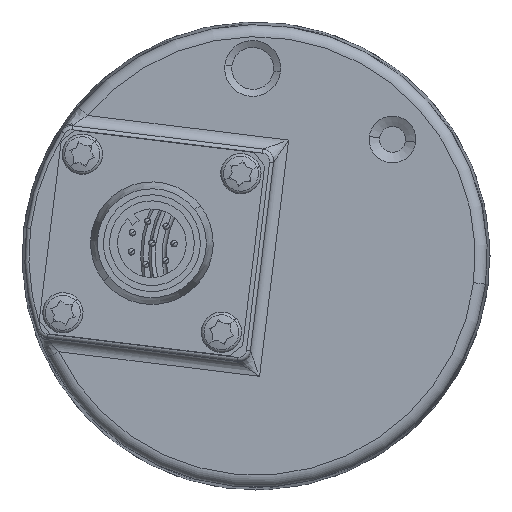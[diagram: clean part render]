
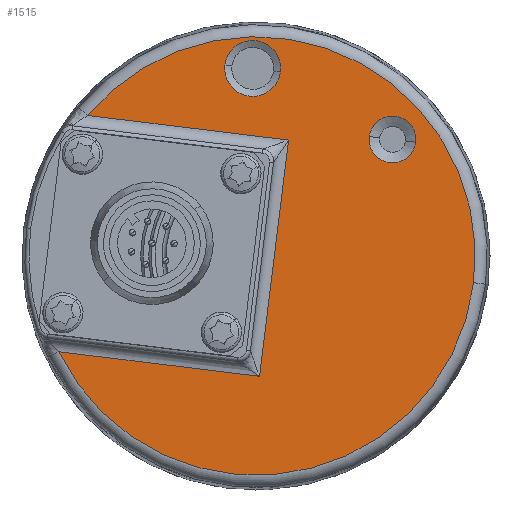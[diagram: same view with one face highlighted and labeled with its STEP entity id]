
A CAD part, left-side view. The second image highlights one B-rep face of the part: STEP entity #1515.
In plain terms, the highlighted planar face has unit normal (-1, 0, 0).
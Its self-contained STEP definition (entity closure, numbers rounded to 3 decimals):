
#1391 = VERTEX_POINT ( 'NONE', #5751 ) ;
#1392 = VERTEX_POINT ( 'NONE', #5750 ) ;
#1433 = VERTEX_POINT ( 'NONE', #5894 ) ;
#1462 = VERTEX_POINT ( 'NONE', #5979 ) ;
#1464 = EDGE_CURVE ( 'NONE', #1465, #1462, #5978, .T. ) ;
#1465 = VERTEX_POINT ( 'NONE', #5973 ) ;
#1474 = EDGE_CURVE ( 'NONE', #1391, #1392, #5997, .T. ) ;
#1491 = VERTEX_POINT ( 'NONE', #6278 ) ;
#1508 = VERTEX_POINT ( 'NONE', #6554 ) ;
#1511 = VERTEX_POINT ( 'NONE', #6544 ) ;
#1513 = EDGE_CURVE ( 'NONE', #1433, #1511, #6543, .T. ) ;
#1514 = EDGE_CURVE ( 'NONE', #1462, #1465, #6592, .T. ) ;
#1515 = ADVANCED_FACE ( 'NONE', ( #6587, #6586, #6585 ), #6570, .F. ) ;
#1516 = EDGE_LOOP ( 'NONE', ( #1517, #1518 ) ) ;
#1517 = ORIENTED_EDGE ( 'NONE', *, *, #1464, .T. ) ;
#1518 = ORIENTED_EDGE ( 'NONE', *, *, #1514, .T. ) ;
#1519 = EDGE_LOOP ( 'NONE', ( #1520, #1574 ) ) ;
#1520 = ORIENTED_EDGE ( 'NONE', *, *, #1513, .T. ) ;
#1521 = EDGE_LOOP ( 'NONE', ( #1575, #1578, #1580, #1581, #1583 ) ) ;
#1545 = EDGE_CURVE ( 'NONE', #1511, #1433, #6654, .T. ) ;
#1549 = EDGE_CURVE ( 'NONE', #1508, #1491, #6696, .T. ) ;
#1574 = ORIENTED_EDGE ( 'NONE', *, *, #1545, .T. ) ;
#1575 = ORIENTED_EDGE ( 'NONE', *, *, #1576, .T. ) ;
#1576 = EDGE_CURVE ( 'NONE', #1491, #1577, #6997, .T. ) ;
#1577 = VERTEX_POINT ( 'NONE', #6351 ) ;
#1578 = ORIENTED_EDGE ( 'NONE', *, *, #1579, .T. ) ;
#1579 = EDGE_CURVE ( 'NONE', #1577, #1391, #6704, .T. ) ;
#1580 = ORIENTED_EDGE ( 'NONE', *, *, #1474, .T. ) ;
#1581 = ORIENTED_EDGE ( 'NONE', *, *, #1582, .T. ) ;
#1582 = EDGE_CURVE ( 'NONE', #1392, #1508, #7066, .T. ) ;
#1583 = ORIENTED_EDGE ( 'NONE', *, *, #1549, .T. ) ;
#5750 = CARTESIAN_POINT ( 'NONE',  ( -22.96, 12.697, 20.024 ) ) ;
#5751 = CARTESIAN_POINT ( 'NONE',  ( -22.96, -35.127, -0.708 ) ) ;
#5894 = CARTESIAN_POINT ( 'NONE',  ( -22.96, -22.198, 17.407 ) ) ;
#5973 = CARTESIAN_POINT ( 'NONE',  ( -22.96, -4.311, 26.272 ) ) ;
#5974 = DIRECTION ( 'NONE',  ( 0., -0.993, -0.122 ) ) ;
#5975 = DIRECTION ( 'NONE',  ( 1., 0., 0. ) ) ;
#5976 = CARTESIAN_POINT ( 'NONE',  ( -22.96, -7.751, 25.85 ) ) ;
#5977 = AXIS2_PLACEMENT_3D ( 'NONE', #5976, #5975, #5974 ) ;
#5978 = CIRCLE ( 'NONE', #5977, 3.466 ) ;
#5979 = CARTESIAN_POINT ( 'NONE',  ( -22.96, -11.191, 25.427 ) ) ;
#5993 = DIRECTION ( 'NONE',  ( 0., -0.993, -0.122 ) ) ;
#5994 = DIRECTION ( 'NONE',  ( -1., 0., 0. ) ) ;
#5995 = CARTESIAN_POINT ( 'NONE',  ( -22.96, -8.157, 2.603 ) ) ;
#5996 = AXIS2_PLACEMENT_3D ( 'NONE', #5995, #5994, #5993 ) ;
#5997 = CIRCLE ( 'NONE', #5996, 27.173 ) ;
#6278 = CARTESIAN_POINT ( 'NONE',  ( -22.96, -8.592, -12.311 ) ) ;
#6350 = DIRECTION ( 'NONE',  ( 0., -0.993, -0.122 ) ) ;
#6351 = CARTESIAN_POINT ( 'NONE',  ( -22.96, 16.292, -9.256 ) ) ;
#6539 = DIRECTION ( 'NONE',  ( 0., -0.993, -0.122 ) ) ;
#6540 = DIRECTION ( 'NONE',  ( 1., 0., 0. ) ) ;
#6541 = CARTESIAN_POINT ( 'NONE',  ( -22.96, -25.076, 17.053 ) ) ;
#6542 = AXIS2_PLACEMENT_3D ( 'NONE', #6541, #6540, #6539 ) ;
#6543 = CIRCLE ( 'NONE', #6542, 2.899 ) ;
#6544 = CARTESIAN_POINT ( 'NONE',  ( -22.96, -27.953, 16.7 ) ) ;
#6554 = CARTESIAN_POINT ( 'NONE',  ( -22.96, -12.187, 16.969 ) ) ;
#6564 = DIRECTION ( 'NONE',  ( 0., -0.993, -0.122 ) ) ;
#6565 = DIRECTION ( 'NONE',  ( 1., 0., 0. ) ) ;
#6566 = CARTESIAN_POINT ( 'NONE',  ( -22.96, -8.157, 2.603 ) ) ;
#6567 = AXIS2_PLACEMENT_3D ( 'NONE', #6566, #6565, #6564 ) ;
#6570 = PLANE ( 'NONE',  #6567 ) ;
#6585 = FACE_OUTER_BOUND ( 'NONE', #1521, .T. ) ;
#6586 = FACE_BOUND ( 'NONE', #1519, .T. ) ;
#6587 = FACE_BOUND ( 'NONE', #1516, .T. ) ;
#6588 = DIRECTION ( 'NONE',  ( 0., -0.993, -0.122 ) ) ;
#6589 = DIRECTION ( 'NONE',  ( 1., 0., 0. ) ) ;
#6590 = CARTESIAN_POINT ( 'NONE',  ( -22.96, -7.751, 25.85 ) ) ;
#6591 = AXIS2_PLACEMENT_3D ( 'NONE', #6590, #6589, #6588 ) ;
#6592 = CIRCLE ( 'NONE', #6591, 3.466 ) ;
#6646 = DIRECTION ( 'NONE',  ( 0., -0.993, -0.122 ) ) ;
#6647 = DIRECTION ( 'NONE',  ( 1., 0., 0. ) ) ;
#6648 = CARTESIAN_POINT ( 'NONE',  ( -22.96, -25.076, 17.053 ) ) ;
#6649 = AXIS2_PLACEMENT_3D ( 'NONE', #6648, #6647, #6646 ) ;
#6654 = CIRCLE ( 'NONE', #6649, 2.899 ) ;
#6692 = DIRECTION ( 'NONE',  ( 0., 0.122, -0.993 ) ) ;
#6693 = VECTOR ( 'NONE', #6692, 1000. ) ;
#6694 = CARTESIAN_POINT ( 'NONE',  ( -22.96, -8.775, -10.822 ) ) ;
#6696 = LINE ( 'NONE', #6694, #6693 ) ;
#6701 = DIRECTION ( 'NONE',  ( -1., 0., 0. ) ) ;
#6702 = CARTESIAN_POINT ( 'NONE',  ( -22.96, -8.157, 2.603 ) ) ;
#6703 = AXIS2_PLACEMENT_3D ( 'NONE', #6702, #6701, #6350 ) ;
#6704 = CIRCLE ( 'NONE', #6703, 27.173 ) ;
#6994 = DIRECTION ( 'NONE',  ( 0., 0.993, 0.122 ) ) ;
#6995 = VECTOR ( 'NONE', #6994, 1000. ) ;
#6996 = CARTESIAN_POINT ( 'NONE',  ( -22.96, 18.857, -8.941 ) ) ;
#6997 = LINE ( 'NONE', #6996, #6995 ) ;
#7063 = DIRECTION ( 'NONE',  ( 0., -0.993, -0.122 ) ) ;
#7064 = VECTOR ( 'NONE', #7063, 1000. ) ;
#7065 = CARTESIAN_POINT ( 'NONE',  ( -22.96, -10.698, 17.152 ) ) ;
#7066 = LINE ( 'NONE', #7065, #7064 ) ;
